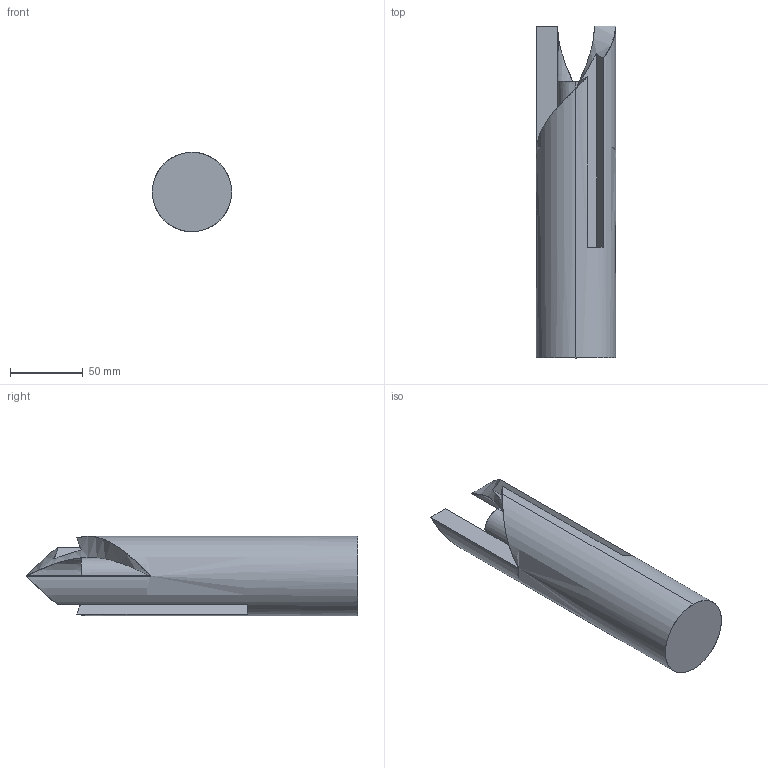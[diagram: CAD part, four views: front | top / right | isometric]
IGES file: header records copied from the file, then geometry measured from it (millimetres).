
Start section: SolidWorks IGES file using analytic representation for surfaces
Global section: file name: J:\groups\me437w2012\CAD\pusher.IGS; native system: SolidWorks 2011; preprocessor: SolidWorks 2011; author: brettany; date: 120315.112345; units: inch
Bounding box: 54.61 x 228.6 x 54.61 mm (x, y, z)
Surface area: 46476.9 mm2 (no closed solid volume)
Topology: 0 solids, 0 shells, 21 faces, 439 edges, 439 vertices
Faces by surface type: bspline 14, revolution 7
